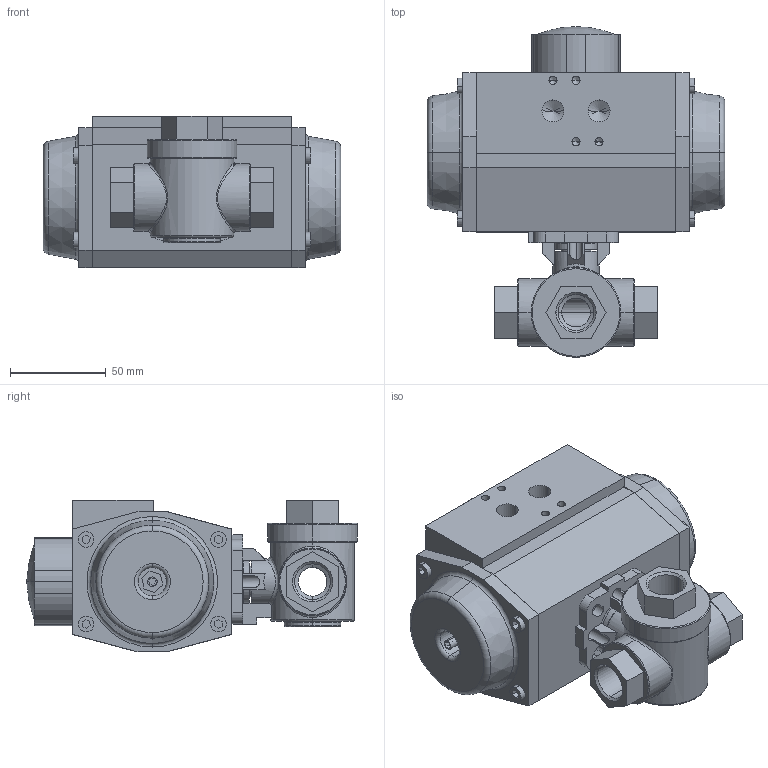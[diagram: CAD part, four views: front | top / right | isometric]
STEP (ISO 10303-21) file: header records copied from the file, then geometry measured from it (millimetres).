
FILE_DESCRIPTION (( 'STEP AP214' ), '1' );
FILE_NAME ('S57D DN15 G1 FB + AP2 l.STEP', '2018-07-03T07:13:28', ( 'Gebruiker' ), ( 'Hewlett-Packard Company' ), 'SwSTEP 2.0', 'SolidWorks 2018', '' );
FILE_SCHEMA (( 'AUTOMOTIVE_DESIGN' ));
Length unit declared in the file: millimetre
Products named in the file (4): AP2 L_Default<As Machined>; S57D DN15 G1_2 HB FB; S57D DN15-G1_2 FB; S57D DN15 G1 FB + AP2 l
Assembly tree (3 placements, depth 3):
  S57D DN15 G1 FB + AP2 l
    S57D DN15 G1_2 HB FB
      S57D DN15-G1_2 FB
    AP2 L_Default<As Machined>
Bounding box: 155 x 172.34 x 79 mm (x, y, z)
Volume: 962501.4 mm3; surface area: 103765.9 mm2
Topology: 9 solids, 9 shells, 445 faces, 1115 edges, 701 vertices
Faces by surface type: plane 250, cylinder 118, cone 44, torus 26, bspline 5, sphere 2
Entity records: 16039 total; most frequent: CARTESIAN_POINT 4099, DIRECTION 2265, ORIENTED_EDGE 2174, EDGE_CURVE 1087, AXIS2_PLACEMENT_3D 761, VECTOR 743, LINE 743, VERTEX_POINT 701
